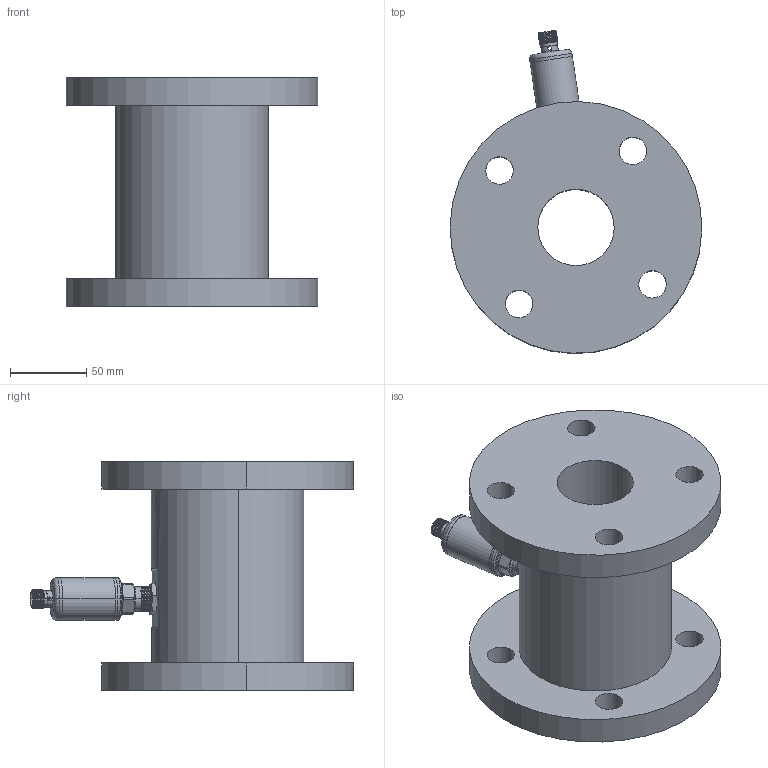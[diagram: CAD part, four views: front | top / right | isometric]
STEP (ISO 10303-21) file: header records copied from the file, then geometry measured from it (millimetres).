
FILE_DESCRIPTION (( 'STEP AP214' ), '1' );
FILE_NAME ('BFW1C50-J.STEP', '2026-01-20T06:00:14', ( '' ), ( '' ), 'SwSTEP 2.0', 'SolidWorks 2023', '' );
FILE_SCHEMA (( 'AUTOMOTIVE_DESIGN' ));
Length unit declared in the file: millimetre
Products named in the file (8): M16螺母; 探头; 垫片; 连接管; 压力变送器; DN50法兰-华东; BFW1C50-J; 壳体
Assembly tree (7 placements, depth 3):
  BFW1C50-J
    压力变送器
      壳体
      垫片
      连接管
      探头
    M16螺母
    DN50法兰-华东
Bounding box: 164.93 x 211.74 x 150 mm (x, y, z)
Volume: 1343506.3 mm3; surface area: 166148.2 mm2
Topology: 6 solids, 6 shells, 253 faces, 644 edges, 417 vertices
Faces by surface type: cylinder 146, cone 48, plane 45, torus 8, bspline 6
Entity records: 12112 total; most frequent: CARTESIAN_POINT 6031, ORIENTED_EDGE 1288, DIRECTION 1176, EDGE_CURVE 644, AXIS2_PLACEMENT_3D 476, VERTEX_POINT 417, EDGE_LOOP 303, ADVANCED_FACE 253
